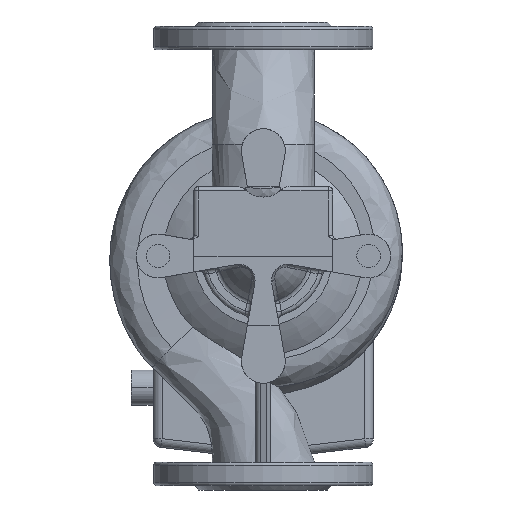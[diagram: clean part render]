
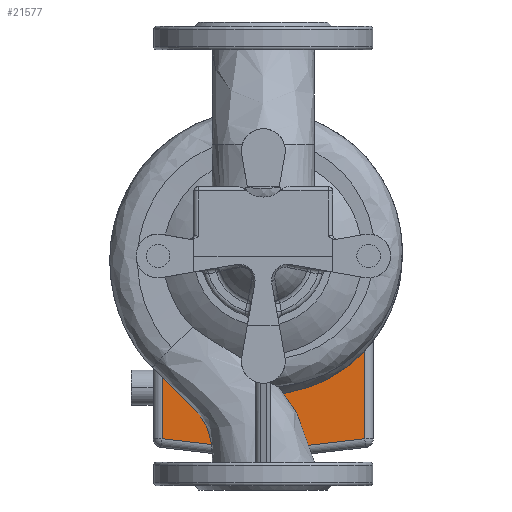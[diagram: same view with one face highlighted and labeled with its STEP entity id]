
A CAD part, front view. The second image highlights one B-rep face of the part: STEP entity #21577.
In plain terms, the highlighted planar face has unit normal (0, -1, 0) as drawn and (0, 0, 1) by its records, which use the part's own axes.
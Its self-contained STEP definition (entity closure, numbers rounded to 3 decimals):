
#370 = VECTOR ( 'NONE', #11214, 1000. ) ;
#541 = CARTESIAN_POINT ( 'NONE',  ( 69.25, 124.96, -85.5 ) ) ;
#724 = VERTEX_POINT ( 'NONE', #20972 ) ;
#1170 = ORIENTED_EDGE ( 'NONE', *, *, #13456, .F. ) ;
#1243 = EDGE_CURVE ( 'NONE', #12549, #23230, #12576, .T. ) ;
#1272 = EDGE_CURVE ( 'NONE', #724, #14481, #9161, .T. ) ;
#1491 = DIRECTION ( 'NONE',  ( 0., 0., -1. ) ) ;
#2649 = EDGE_LOOP ( 'NONE', ( #1170, #26816, #6029, #7552, #2798, #24695, #4487, #13358, #3343, #4223 ) ) ;
#2798 = ORIENTED_EDGE ( 'NONE', *, *, #13975, .F. ) ;
#3343 = ORIENTED_EDGE ( 'NONE', *, *, #11476, .T. ) ;
#3619 = CARTESIAN_POINT ( 'NONE',  ( -85.5, 52., -85.5 ) ) ;
#4026 = CIRCLE ( 'NONE', #6209, 171. ) ;
#4223 = ORIENTED_EDGE ( 'NONE', *, *, #22901, .T. ) ;
#4487 = ORIENTED_EDGE ( 'NONE', *, *, #26559, .T. ) ;
#5318 = CARTESIAN_POINT ( 'NONE',  ( 0., 0., -85.5 ) ) ;
#5899 = DIRECTION ( 'NONE',  ( 1., 0., 0. ) ) ;
#5917 = PLANE ( 'NONE',  #22163 ) ;
#6029 = ORIENTED_EDGE ( 'NONE', *, *, #25743, .T. ) ;
#6175 = CARTESIAN_POINT ( 'NONE',  ( 85.5, 0., -85.5 ) ) ;
#6209 = AXIS2_PLACEMENT_3D ( 'NONE', #18844, #8476, #20353 ) ;
#6823 = DIRECTION ( 'NONE',  ( 1., 0., 0. ) ) ;
#6926 = CARTESIAN_POINT ( 'NONE',  ( 0., -269., -85.5 ) ) ;
#7480 = DIRECTION ( 'NONE',  ( 1., 0., 0. ) ) ;
#7552 = ORIENTED_EDGE ( 'NONE', *, *, #1272, .T. ) ;
#7623 = AXIS2_PLACEMENT_3D ( 'NONE', #6926, #15658, #13481 ) ;
#8096 = CARTESIAN_POINT ( 'NONE',  ( -77.402, 52., -85.5 ) ) ;
#8156 = VERTEX_POINT ( 'NONE', #541 ) ;
#8281 = EDGE_CURVE ( 'NONE', #16571, #8156, #9552, .T. ) ;
#8476 = DIRECTION ( 'NONE',  ( 0., 0., 1. ) ) ;
#9005 = DIRECTION ( 'NONE',  ( 0., 1., 0. ) ) ;
#9161 = LINE ( 'NONE', #19396, #370 ) ;
#9552 = LINE ( 'NONE', #25787, #20472 ) ;
#9888 = CARTESIAN_POINT ( 'NONE',  ( 77.402, 52., -85.5 ) ) ;
#10151 = CARTESIAN_POINT ( 'NONE',  ( 41.5, 85.5, -85.5 ) ) ;
#10538 = VERTEX_POINT ( 'NONE', #9888 ) ;
#10723 = CARTESIAN_POINT ( 'NONE',  ( -69.25, 52., -85.5 ) ) ;
#10926 = LINE ( 'NONE', #21152, #22134 ) ;
#11214 = DIRECTION ( 'NONE',  ( 0., -1., 0. ) ) ;
#11464 = CARTESIAN_POINT ( 'NONE',  ( -78.027, 50., -85.5 ) ) ;
#11476 = EDGE_CURVE ( 'NONE', #25000, #13229, #26180, .T. ) ;
#12549 = VERTEX_POINT ( 'NONE', #8096 ) ;
#12576 = CIRCLE ( 'NONE', #23904, 171. ) ;
#13229 = VERTEX_POINT ( 'NONE', #25219 ) ;
#13358 = ORIENTED_EDGE ( 'NONE', *, *, #24101, .T. ) ;
#13456 = EDGE_CURVE ( 'NONE', #16571, #10538, #24634, .T. ) ;
#13481 = DIRECTION ( 'NONE',  ( 0., -1., 0. ) ) ;
#13975 = EDGE_CURVE ( 'NONE', #12549, #14481, #25812, .T. ) ;
#14393 = CARTESIAN_POINT ( 'NONE',  ( -52.5, 50., -85.5 ) ) ;
#14481 = VERTEX_POINT ( 'NONE', #10723 ) ;
#15116 = VECTOR ( 'NONE', #7480, 1000. ) ;
#15658 = DIRECTION ( 'NONE',  ( 0., 0., 1. ) ) ;
#15837 = DIRECTION ( 'NONE',  ( 1., 0., 0. ) ) ;
#16273 = DIRECTION ( 'NONE',  ( 0., 0., 1. ) ) ;
#16313 = DIRECTION ( 'NONE',  ( 1., 0., 0. ) ) ;
#16571 = VERTEX_POINT ( 'NONE', #25303 ) ;
#16705 = CARTESIAN_POINT ( 'NONE',  ( 52.5, 50., -85.5 ) ) ;
#17215 = CIRCLE ( 'NONE', #7623, 400. ) ;
#17725 = CARTESIAN_POINT ( 'NONE',  ( -85.5, 50., -85.5 ) ) ;
#17769 = VECTOR ( 'NONE', #16313, 1000. ) ;
#18208 = VECTOR ( 'NONE', #23237, 1000. ) ;
#18456 = AXIS2_PLACEMENT_3D ( 'NONE', #5318, #1491, #15837 ) ;
#18613 = DIRECTION ( 'NONE',  ( 0., 0., 1. ) ) ;
#18844 = CARTESIAN_POINT ( 'NONE',  ( -85.5, 0., -85.5 ) ) ;
#18884 = CIRCLE ( 'NONE', #18456, 72.5 ) ;
#19136 = CARTESIAN_POINT ( 'NONE',  ( -85.5, 52., -85.5 ) ) ;
#19396 = CARTESIAN_POINT ( 'NONE',  ( -69.25, 85.5, -85.5 ) ) ;
#20353 = DIRECTION ( 'NONE',  ( 1., 0., 0. ) ) ;
#20472 = VECTOR ( 'NONE', #9005, 1000. ) ;
#20972 = CARTESIAN_POINT ( 'NONE',  ( -69.25, 124.96, -85.5 ) ) ;
#21152 = CARTESIAN_POINT ( 'NONE',  ( -85.5, 50., -85.5 ) ) ;
#21577 = ADVANCED_FACE ( 'NONE', ( #25020 ), #5917, .T. ) ;
#21631 = VERTEX_POINT ( 'NONE', #14393 ) ;
#22134 = VECTOR ( 'NONE', #6823, 1000. ) ;
#22163 = AXIS2_PLACEMENT_3D ( 'NONE', #10151, #18613, #24889 ) ;
#22901 = EDGE_CURVE ( 'NONE', #13229, #10538, #4026, .T. ) ;
#23230 = VERTEX_POINT ( 'NONE', #11464 ) ;
#23237 = DIRECTION ( 'NONE',  ( 1., 0., 0. ) ) ;
#23904 = AXIS2_PLACEMENT_3D ( 'NONE', #6175, #16273, #5899 ) ;
#24101 = EDGE_CURVE ( 'NONE', #21631, #25000, #18884, .T. ) ;
#24634 = LINE ( 'NONE', #3619, #17769 ) ;
#24695 = ORIENTED_EDGE ( 'NONE', *, *, #1243, .T. ) ;
#24889 = DIRECTION ( 'NONE',  ( 0., -1., 0. ) ) ;
#25000 = VERTEX_POINT ( 'NONE', #16705 ) ;
#25020 = FACE_OUTER_BOUND ( 'NONE', #2649, .T. ) ;
#25219 = CARTESIAN_POINT ( 'NONE',  ( 78.027, 50., -85.5 ) ) ;
#25303 = CARTESIAN_POINT ( 'NONE',  ( 69.25, 52., -85.5 ) ) ;
#25743 = EDGE_CURVE ( 'NONE', #8156, #724, #17215, .T. ) ;
#25787 = CARTESIAN_POINT ( 'NONE',  ( 69.25, 85.5, -85.5 ) ) ;
#25812 = LINE ( 'NONE', #19136, #18208 ) ;
#26180 = LINE ( 'NONE', #17725, #15116 ) ;
#26559 = EDGE_CURVE ( 'NONE', #23230, #21631, #10926, .T. ) ;
#26816 = ORIENTED_EDGE ( 'NONE', *, *, #8281, .T. ) ;
